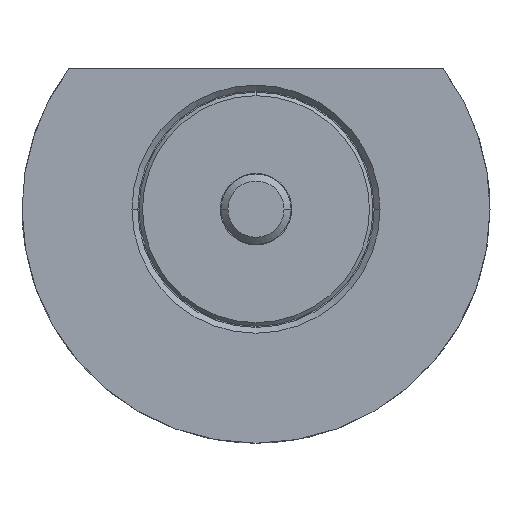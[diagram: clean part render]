
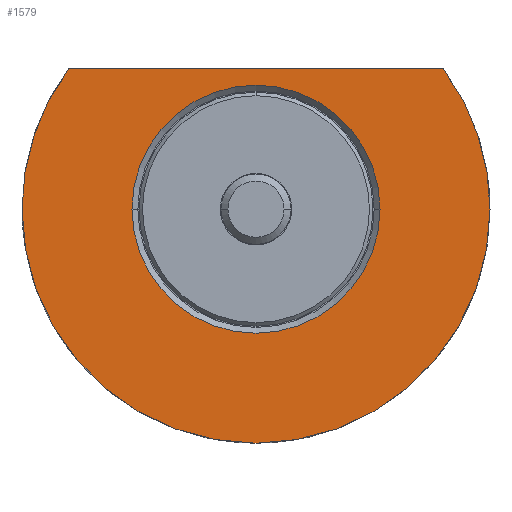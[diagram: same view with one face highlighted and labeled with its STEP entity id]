
A CAD part, front view. The second image highlights one B-rep face of the part: STEP entity #1579.
In plain terms, the highlighted planar face has unit normal (0, -1, 0).
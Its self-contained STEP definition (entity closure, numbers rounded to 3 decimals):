
#45 = DIRECTION ( 'NONE',  ( 0., 1., 0. ) ) ;
#53 = CARTESIAN_POINT ( 'NONE',  ( -10.6, -10., 0. ) ) ;
#57 = DIRECTION ( 'NONE',  ( -1., 0., 0. ) ) ;
#81 = CARTESIAN_POINT ( 'NONE',  ( 20., -10., 0. ) ) ;
#240 = ORIENTED_EDGE ( 'NONE', *, *, #1107, .F. ) ;
#244 = FACE_BOUND ( 'NONE', #2402, .T. ) ;
#250 = AXIS2_PLACEMENT_3D ( 'NONE', #896, #2265, #297 ) ;
#259 = CARTESIAN_POINT ( 'NONE',  ( -10.6, -10., 0. ) ) ;
#297 = DIRECTION ( 'NONE',  ( -1., 0., 0. ) ) ;
#309 = CARTESIAN_POINT ( 'NONE',  ( 0., -10., 0. ) ) ;
#314 = VERTEX_POINT ( 'NONE', #552 ) ;
#324 = CIRCLE ( 'NONE', #2143, 20. ) ;
#407 = DIRECTION ( 'NONE',  ( -1., 0., 0. ) ) ;
#478 = CARTESIAN_POINT ( 'NONE',  ( 0., -10., 0. ) ) ;
#496 = CIRCLE ( 'NONE', #843, 20. ) ;
#515 = CARTESIAN_POINT ( 'NONE',  ( -16.001, -10., 11.999 ) ) ;
#552 = CARTESIAN_POINT ( 'NONE',  ( 10.6, -10., 0. ) ) ;
#566 = CARTESIAN_POINT ( 'NONE',  ( -10.6, -10., 11.999 ) ) ;
#581 = AXIS2_PLACEMENT_3D ( 'NONE', #1657, #1698, #57 ) ;
#628 = CARTESIAN_POINT ( 'NONE',  ( -20., -10., 0. ) ) ;
#651 = FACE_OUTER_BOUND ( 'NONE', #1003, .T. ) ;
#705 = VERTEX_POINT ( 'NONE', #628 ) ;
#751 = AXIS2_PLACEMENT_3D ( 'NONE', #478, #2478, #1281 ) ;
#767 = LINE ( 'NONE', #566, #2311 ) ;
#783 = ORIENTED_EDGE ( 'NONE', *, *, #1300, .T. ) ;
#795 = DIRECTION ( 'NONE',  ( -1., 0., 0. ) ) ;
#843 = AXIS2_PLACEMENT_3D ( 'NONE', #1860, #45, #407 ) ;
#854 = VERTEX_POINT ( 'NONE', #515 ) ;
#888 = DIRECTION ( 'NONE',  ( 0., 1., 0. ) ) ;
#896 = CARTESIAN_POINT ( 'NONE',  ( 0., -10., 0. ) ) ;
#905 = DIRECTION ( 'NONE',  ( 1., 0., 0. ) ) ;
#908 = ORIENTED_EDGE ( 'NONE', *, *, #1234, .F. ) ;
#1003 = EDGE_LOOP ( 'NONE', ( #908, #783, #240, #1631 ) ) ;
#1107 = EDGE_CURVE ( 'NONE', #705, #854, #1850, .T. ) ;
#1125 = EDGE_CURVE ( 'NONE', #314, #2224, #2521, .T. ) ;
#1211 = ORIENTED_EDGE ( 'NONE', *, *, #1125, .T. ) ;
#1234 = EDGE_CURVE ( 'NONE', #1408, #2219, #324, .T. ) ;
#1269 = PLANE ( 'NONE',  #1935 ) ;
#1279 = DIRECTION ( 'NONE',  ( 0., -1., 0. ) ) ;
#1281 = DIRECTION ( 'NONE',  ( -1., 0., 0. ) ) ;
#1300 = EDGE_CURVE ( 'NONE', #1408, #854, #767, .T. ) ;
#1314 = DIRECTION ( 'NONE',  ( -1., 0., 0. ) ) ;
#1408 = VERTEX_POINT ( 'NONE', #2559 ) ;
#1475 = CIRCLE ( 'NONE', #250, 10.6 ) ;
#1500 = EDGE_CURVE ( 'NONE', #2219, #705, #496, .T. ) ;
#1579 = ADVANCED_FACE ( 'NONE', ( #244, #651 ), #1269, .T. ) ;
#1631 = ORIENTED_EDGE ( 'NONE', *, *, #1500, .F. ) ;
#1657 = CARTESIAN_POINT ( 'NONE',  ( 0., -10., 0. ) ) ;
#1693 = EDGE_CURVE ( 'NONE', #2224, #314, #1475, .T. ) ;
#1698 = DIRECTION ( 'NONE',  ( 0., 1., 0. ) ) ;
#1850 = CIRCLE ( 'NONE', #581, 20. ) ;
#1860 = CARTESIAN_POINT ( 'NONE',  ( 0., -10., 0. ) ) ;
#1935 = AXIS2_PLACEMENT_3D ( 'NONE', #259, #1279, #905 ) ;
#2049 = ORIENTED_EDGE ( 'NONE', *, *, #1693, .T. ) ;
#2143 = AXIS2_PLACEMENT_3D ( 'NONE', #309, #888, #1314 ) ;
#2219 = VERTEX_POINT ( 'NONE', #81 ) ;
#2224 = VERTEX_POINT ( 'NONE', #53 ) ;
#2265 = DIRECTION ( 'NONE',  ( 0., 1., 0. ) ) ;
#2311 = VECTOR ( 'NONE', #795, 1000. ) ;
#2402 = EDGE_LOOP ( 'NONE', ( #1211, #2049 ) ) ;
#2478 = DIRECTION ( 'NONE',  ( 0., 1., 0. ) ) ;
#2521 = CIRCLE ( 'NONE', #751, 10.6 ) ;
#2559 = CARTESIAN_POINT ( 'NONE',  ( 16.001, -10., 11.999 ) ) ;
